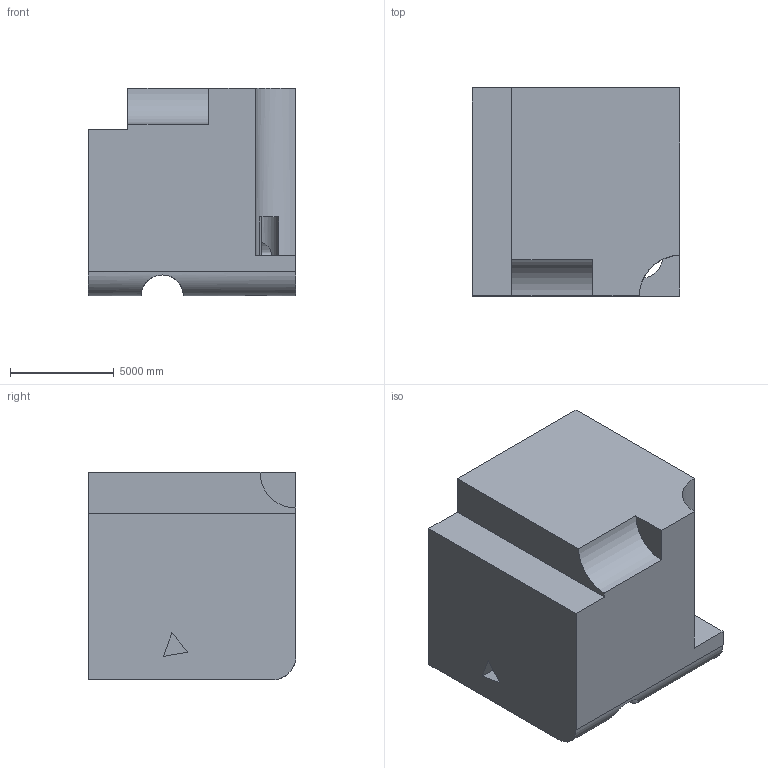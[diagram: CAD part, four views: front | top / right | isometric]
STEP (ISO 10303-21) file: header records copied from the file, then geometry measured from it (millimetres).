
FILE_DESCRIPTION (( 'STEP AP203' ), '1' );
FILE_NAME ('828.STEP', '2022-07-29T13:31:14', ( 'user' ), ( '' ), 'SwSTEP 2.0', 'SolidWorks 2021', '' );
FILE_SCHEMA (( 'CONFIG_CONTROL_DESIGN' ));
Length unit declared in the file: centimetre
Products named in the file (1): 828
Bounding box: 10000 x 10000 x 10000 mm (x, y, z)
Volume: 867452248952.9 mm3; surface area: 678560937.4 mm2
Topology: 1 solids, 1 shells, 34 faces, 98 edges, 66 vertices
Faces by surface type: plane 21, cylinder 13
Entity records: 1967 total; most frequent: CARTESIAN_POINT 968, ORIENTED_EDGE 196, DIRECTION 188, EDGE_CURVE 98, VERTEX_POINT 66, AXIS2_PLACEMENT_3D 64, LINE 60, VECTOR 60
